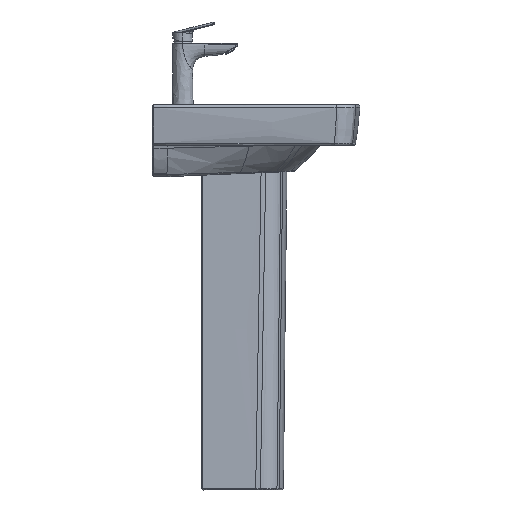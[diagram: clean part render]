
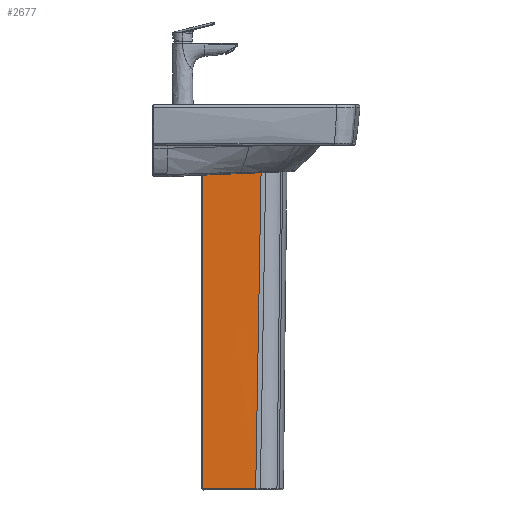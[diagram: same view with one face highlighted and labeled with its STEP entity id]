
A CAD part, left-side view. The second image highlights one B-rep face of the part: STEP entity #2677.
In plain terms, the highlighted free-form (B-spline) face has degree [5, 5] with [9, 6] control points.
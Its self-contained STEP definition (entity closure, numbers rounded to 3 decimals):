
#428=B_SPLINE_SURFACE_WITH_KNOTS('',5,5,((#108973,#108974,#108975,#108976,
#108977,#108978),(#108979,#108980,#108981,#108982,#108983,#108984),(#108985,
#108986,#108987,#108988,#108989,#108990),(#108991,#108992,#108993,#108994,
#108995,#108996),(#108997,#108998,#108999,#109000,#109001,#109002),(#109003,
#109004,#109005,#109006,#109007,#109008),(#109009,#109010,#109011,#109012,
#109013,#109014),(#109015,#109016,#109017,#109018,#109019,#109020),(#109021,
#109022,#109023,#109024,#109025,#109026)),.UNSPECIFIED.,.F.,.F.,.F.,(6,
3,6),(6,6),(3.014,357.581,712.461),(-53.369,
76.24),.UNSPECIFIED.);
#1850=B_SPLINE_CURVE_WITH_KNOTS('',5,(#111462,#111463,#111464,#111465,#111466,
#111467,#111468,#111469,#111470),.UNSPECIFIED.,.F.,.F.,(6,3,6),(-235.829,
-121.908,-56.39),.UNSPECIFIED.);
#1851=B_SPLINE_CURVE_WITH_KNOTS('',3,(#111471,#111472,#111473,#111474),
 .UNSPECIFIED.,.F.,.F.,(4,4),(0.,11.761),
 .UNSPECIFIED.);
#1852=B_SPLINE_CURVE_WITH_KNOTS('',5,(#111475,#111476,#111477,#111478,#111479,
#111480,#111481,#111482,#111483),.UNSPECIFIED.,.F.,.F.,(6,3,6),(3.014,
357.581,712.461),.UNSPECIFIED.);
#1917=B_SPLINE_CURVE_WITH_KNOTS('',3,(#112048,#112049,#112050,#112051,#112052,
#112053,#112054,#112055,#112056,#112057,#112058,#112059,#112060,#112061,
#112062,#112063,#112064,#112065),.UNSPECIFIED.,.F.,.F.,(4,2,2,2,2,2,2,2,
4),(204.347,329.724,455.101,580.479,705.856,
831.233,956.611,1081.988,1207.365),
 .UNSPECIFIED.);
#2677=ADVANCED_FACE('',(#3470),#428,.T.);
#3470=FACE_OUTER_BOUND('',#4260,.T.);
#4260=EDGE_LOOP('',(#7705,#7706,#7707,#7708));
#7705=ORIENTED_EDGE('',*,*,#9584,.T.);
#7706=ORIENTED_EDGE('',*,*,#9585,.F.);
#7707=ORIENTED_EDGE('',*,*,#9583,.T.);
#7708=ORIENTED_EDGE('',*,*,#9663,.T.);
#9583=EDGE_CURVE('',#10999,#11033,#1850,.T.);
#9584=EDGE_CURVE('',#11035,#11000,#1851,.T.);
#9585=EDGE_CURVE('',#10999,#11000,#1852,.T.);
#9663=EDGE_CURVE('',#11033,#11035,#1917,.T.);
#10999=VERTEX_POINT('',#110474);
#11000=VERTEX_POINT('',#110475);
#11033=VERTEX_POINT('',#110508);
#11035=VERTEX_POINT('',#110510);
#108973=CARTESIAN_POINT('',(-93.781,118.786,286.69));
#108974=CARTESIAN_POINT('',(-93.417,92.852,286.69));
#108975=CARTESIAN_POINT('',(-93.048,66.918,286.69));
#108976=CARTESIAN_POINT('',(-92.678,40.985,286.69));
#108977=CARTESIAN_POINT('',(-92.308,15.051,286.69));
#108978=CARTESIAN_POINT('',(-91.941,-10.883,286.69));
#108979=CARTESIAN_POINT('',(-93.288,119.974,215.791));
#108980=CARTESIAN_POINT('',(-93.058,94.04,215.79));
#108981=CARTESIAN_POINT('',(-92.714,68.107,215.79));
#108982=CARTESIAN_POINT('',(-92.32,42.174,215.792));
#108983=CARTESIAN_POINT('',(-91.941,16.241,215.793));
#108984=CARTESIAN_POINT('',(-91.641,-9.692,215.793));
#108985=CARTESIAN_POINT('',(-92.955,121.169,144.889));
#108986=CARTESIAN_POINT('',(-92.953,95.239,144.885));
#108987=CARTESIAN_POINT('',(-92.667,69.311,144.884));
#108988=CARTESIAN_POINT('',(-92.229,43.383,144.885));
#108989=CARTESIAN_POINT('',(-91.769,17.455,144.886));
#108990=CARTESIAN_POINT('',(-91.418,-8.475,144.885));
#108991=CARTESIAN_POINT('',(-91.686,122.363,73.998));
#108992=CARTESIAN_POINT('',(-91.325,96.439,73.999));
#108993=CARTESIAN_POINT('',(-90.786,70.517,74.003));
#108994=CARTESIAN_POINT('',(-90.209,44.596,74.009));
#108995=CARTESIAN_POINT('',(-89.734,18.674,74.013));
#108996=CARTESIAN_POINT('',(-89.501,-7.251,74.015));
#108997=CARTESIAN_POINT('',(-90.459,124.75,-67.863));
#108998=CARTESIAN_POINT('',(-90.214,98.833,-67.864));
#108999=CARTESIAN_POINT('',(-89.631,72.921,-67.861));
#109000=CARTESIAN_POINT('',(-88.912,47.011,-67.856));
#109001=CARTESIAN_POINT('',(-88.263,21.099,-67.852));
#109002=CARTESIAN_POINT('',(-87.889,-4.817,-67.851));
#109003=CARTESIAN_POINT('',(-88.647,127.138,-209.717));
#109004=CARTESIAN_POINT('',(-88.201,101.228,-209.716));
#109005=CARTESIAN_POINT('',(-87.505,75.324,-209.712));
#109006=CARTESIAN_POINT('',(-86.733,49.421,-209.707));
#109007=CARTESIAN_POINT('',(-86.055,23.518,-209.702));
#109008=CARTESIAN_POINT('',(-85.645,-2.39,-209.7));
#109009=CARTESIAN_POINT('',(-88.412,128.33,-280.684));
#109010=CARTESIAN_POINT('',(-88.304,102.422,-280.687));
#109011=CARTESIAN_POINT('',(-87.822,76.518,-280.689));
#109012=CARTESIAN_POINT('',(-87.139,50.616,-280.688));
#109013=CARTESIAN_POINT('',(-86.425,24.714,-280.687));
#109014=CARTESIAN_POINT('',(-85.852,-1.192,-280.688));
#109015=CARTESIAN_POINT('',(-87.266,129.522,-351.639));
#109016=CARTESIAN_POINT('',(-86.948,103.613,-351.64));
#109017=CARTESIAN_POINT('',(-86.445,77.708,-351.64));
#109018=CARTESIAN_POINT('',(-85.853,51.805,-351.638));
#109019=CARTESIAN_POINT('',(-85.269,25.902,-351.637));
#109020=CARTESIAN_POINT('',(-84.79,-0.003,-351.637));
#109021=CARTESIAN_POINT('',(-86.325,130.717,-422.597));
#109022=CARTESIAN_POINT('',(-85.957,104.811,-422.597));
#109023=CARTESIAN_POINT('',(-85.583,78.905,-422.597));
#109024=CARTESIAN_POINT('',(-85.206,52.999,-422.597));
#109025=CARTESIAN_POINT('',(-84.829,27.093,-422.597));
#109026=CARTESIAN_POINT('',(-84.456,1.187,-422.596));
#110474=CARTESIAN_POINT('',(-91.941,-10.883,286.69));
#110475=CARTESIAN_POINT('',(-84.456,1.187,-422.596));
#110508=CARTESIAN_POINT('',(-93.781,118.786,286.682));
#110510=CARTESIAN_POINT('',(-86.155,118.777,-422.597));
#111462=CARTESIAN_POINT('',(-91.941,-10.883,286.69));
#111463=CARTESIAN_POINT('',(-92.169,5.231,286.689));
#111464=CARTESIAN_POINT('',(-92.398,21.344,286.688));
#111465=CARTESIAN_POINT('',(-92.635,37.946,286.688));
#111466=CARTESIAN_POINT('',(-92.997,63.327,286.688));
#111467=CARTESIAN_POINT('',(-93.357,88.708,286.687));
#111468=CARTESIAN_POINT('',(-93.497,98.596,286.686));
#111469=CARTESIAN_POINT('',(-93.64,108.723,286.684));
#111470=CARTESIAN_POINT('',(-93.781,118.786,286.682));
#111471=CARTESIAN_POINT('',(-86.155,118.777,-422.597));
#111472=CARTESIAN_POINT('',(-85.596,79.58,-422.597));
#111473=CARTESIAN_POINT('',(-85.02,40.384,-422.596));
#111474=CARTESIAN_POINT('',(-84.456,1.187,-422.596));
#111475=CARTESIAN_POINT('',(-91.941,-10.883,286.69));
#111476=CARTESIAN_POINT('',(-91.641,-9.692,215.793));
#111477=CARTESIAN_POINT('',(-91.418,-8.475,144.884));
#111478=CARTESIAN_POINT('',(-89.501,-7.251,74.015));
#111479=CARTESIAN_POINT('',(-87.889,-4.817,-67.851));
#111480=CARTESIAN_POINT('',(-85.645,-2.39,-209.7));
#111481=CARTESIAN_POINT('',(-85.852,-1.192,-280.688));
#111482=CARTESIAN_POINT('',(-84.79,-0.003,-351.637));
#111483=CARTESIAN_POINT('',(-84.456,1.187,-422.596));
#112048=CARTESIAN_POINT('',(-93.781,118.786,286.682));
#112049=CARTESIAN_POINT('',(-93.569,118.792,257.137));
#112050=CARTESIAN_POINT('',(-93.379,118.799,227.589));
#112051=CARTESIAN_POINT('',(-92.877,118.804,168.493));
#112052=CARTESIAN_POINT('',(-92.57,118.802,138.946));
#112053=CARTESIAN_POINT('',(-91.896,118.795,79.854));
#112054=CARTESIAN_POINT('',(-91.537,118.79,50.3));
#112055=CARTESIAN_POINT('',(-90.862,118.784,-8.934));
#112056=CARTESIAN_POINT('',(-90.556,118.783,-38.558));
#112057=CARTESIAN_POINT('',(-89.905,118.779,-97.573));
#112058=CARTESIAN_POINT('',(-89.558,118.776,-127.134));
#112059=CARTESIAN_POINT('',(-88.937,118.776,-186.224));
#112060=CARTESIAN_POINT('',(-88.657,118.777,-215.751));
#112061=CARTESIAN_POINT('',(-88.067,118.781,-274.91));
#112062=CARTESIAN_POINT('',(-87.748,118.782,-304.575));
#112063=CARTESIAN_POINT('',(-86.995,118.78,-363.835));
#112064=CARTESIAN_POINT('',(-86.538,118.777,-394.496));
#112065=CARTESIAN_POINT('',(-86.155,118.777,-422.597));
